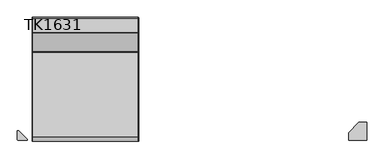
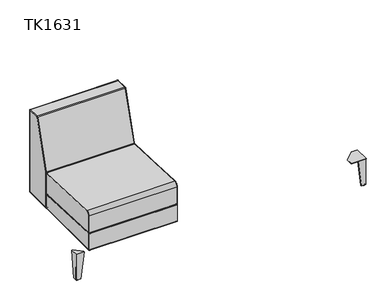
"""IFC4 building model written with IfcOpenShell, lengths in millimetres: furniture geometry, JSI-Teekan-Three_Seat_Lounge : TK1631."""

from ifc_helpers import new_model, si_unit, point, frame, origin, place, context, project, spatial, polyline, circle_curve, ellipse_curve, trimmed, outline, extrude, source, transform, mapped, element, save
from ifc_brep_helpers import plane_surface, cylinder_surface, revolved_surface, spline_surface, advanced_brep


def tk1631_d9fb5791(model_context):
    return source(origin(), model_context, "Body", "SolidModel", [
        advanced_brep(
        [(-303.0140625, 148.7693192, 295.6513391), (-303.0140625, 153.733973, 300.4095468), (-300.6328125, 151.352723, 300.4095468), (-300.6328125, 148.8703961, 298.0304429), (-899.5171875, 148.7693192, 295.6513391), (-899.5171875, 153.733973, 300.4095468), (-901.8984375, 148.8703961, 298.0304429), (-901.8984375, 151.352723, 300.4095468), (-300.6328125, -344.5512855, 318.9936072), (-303.0140625, -344.6523625, 316.6145034), (-899.5171875, -344.6523625, 316.6145034), (-901.8984375, -344.5512855, 318.9936072), (-303.0140625, -322.7527962, 467.50355), (-300.6328125, -322.8538731, 465.1244462), (-300.6328125, 149.0725499, 445.0745142), (-303.0140625, 149.1736269, 447.4536181), (-899.5171875, 149.1736269, 447.4536181), (-899.5171875, -322.7527962, 467.50355), (-901.8984375, 149.0725499, 445.0745142), (-901.8984375, -322.8538731, 465.1244462), (-300.6328125, 151.352723, 442.6954104), (-303.0140625, 153.733973, 442.6954104), (-899.5171875, 153.733973, 442.6954104), (-901.8984375, 151.352723, 442.6954104), (-300.6328125, -346.8497, 321.3917439), (-303.0140625, -349.23095, 321.3917439), (-899.5171875, -349.23095, 321.3917439), (-901.8984375, -346.8497, 321.3917439), (-300.6328125, -346.8497, 442.1264425), (-303.0140625, -349.23095, 442.1264425), (-899.5171875, -349.23095, 442.1264425), (-901.8984375, -346.8497, 442.1264425)],
        [
            (0, 1, circle_curve(frame((-303.0140625, 148.971473, 300.4095468), z_axis=(1.0, 0.0, 0.0), x_axis=(0.0, 1.0, 0.0)), 4.7625)),
            (1, 2, circle_curve(frame((-303.0140625, 151.352723, 300.4095468), z_axis=(0.0, 0.0, -1.0), x_axis=(1.0, 0.0, 0.0)), 2.38125)),
            (2, 3, circle_curve(frame((-300.6328125, 148.971473, 300.4095468), z_axis=(-1.0, 0.0, 0.0), x_axis=(0.0, 1.0, 0.0)), 2.38125)),
            (3, 0, circle_curve(frame((-303.0140625, 148.8703961, 298.0304429), z_axis=(0.0, 0.9990987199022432, -0.04244700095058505), x_axis=(1.0, 0.0, 0.0)), 2.38125)),
            (0, 4),
            (4, 5, circle_curve(frame((-899.5171875, 148.971473, 300.4095468), z_axis=(1.0, 0.0, 0.0), x_axis=(0.0, 1.0, 0.0)), 4.7625)),
            (5, 1),
            (4, 6, circle_curve(frame((-899.5171875, 148.8703961, 298.0304429), z_axis=(0.0, 0.9990987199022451, -0.0424470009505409), x_axis=(1.0, 0.0, 0.0)), 2.38125)),
            (6, 7, circle_curve(frame((-901.8984375, 148.971473, 300.4095468), z_axis=(1.0, 0.0, 0.0), x_axis=(0.0, 1.0, 0.0)), 2.38125)),
            (7, 5, circle_curve(frame((-899.5171875, 151.352723, 300.4095468), z_axis=(0.0, 0.0, -1.0), x_axis=(1.0, 0.0, 0.0)), 2.38125)),
            (3, 8),
            (8, 9, circle_curve(frame((-303.0140625, -344.5512855, 318.9936072), z_axis=(0.0, 0.9990987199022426, -0.04244700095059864), x_axis=(1.0, 0.0, 0.0)), 2.38125)),
            (9, 0),
            (9, 10),
            (10, 4),
            (10, 11, circle_curve(frame((-899.5171875, -344.5512855, 318.9936072), z_axis=(0.0, 0.9990987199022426, -0.04244700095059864), x_axis=(1.0, 0.0, 0.0)), 2.38125)),
            (11, 6),
            (12, 13, circle_curve(frame((-303.0140625, -322.8538731, 465.1244462), z_axis=(0.0, 0.9990987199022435, -0.0424470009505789), x_axis=(1.0, 0.0, 0.0)), 2.38125)),
            (13, 14),
            (14, 15, circle_curve(frame((-303.0140625, 149.0725499, 445.0745142), z_axis=(0.0, -0.9990987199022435, 0.0424470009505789), x_axis=(1.0, 0.0, 0.0)), 2.38125)),
            (15, 12),
            (15, 16),
            (16, 17),
            (17, 12),
            (16, 18, circle_curve(frame((-899.5171875, 149.0725499, 445.0745142), z_axis=(0.0, -0.9990987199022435, 0.0424470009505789), x_axis=(1.0, 0.0, 0.0)), 2.38125)),
            (18, 19),
            (19, 17, circle_curve(frame((-899.5171875, -322.8538731, 465.1244462), z_axis=(0.0, 0.9990987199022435, -0.0424470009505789), x_axis=(1.0, 0.0, 0.0)), 2.38125)),
            (14, 20, circle_curve(frame((-300.6328125, 148.971473, 442.6954104), z_axis=(-1.0, 0.0, 0.0), x_axis=(0.0, 0.04244700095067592, 0.9990987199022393)), 2.38125)),
            (20, 21, circle_curve(frame((-303.0140625, 151.352723, 442.6954104), z_axis=(0.0, 0.0, 0.9999999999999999), x_axis=(1.0, 0.0, 0.0)), 2.38125)),
            (21, 15, circle_curve(frame((-303.0140625, 148.971473, 442.6954104), z_axis=(1.0, 0.0, 0.0), x_axis=(0.0, 0.04244700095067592, 0.9990987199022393)), 4.7625)),
            (21, 22),
            (22, 16, circle_curve(frame((-899.5171875, 148.971473, 442.6954104), z_axis=(1.0, 0.0, 0.0), x_axis=(0.0, 0.04244700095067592, 0.9990987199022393)), 4.7625)),
            (22, 23, circle_curve(frame((-899.5171875, 151.352723, 442.6954104), z_axis=(0.0, 0.0, 1.0), x_axis=(1.0, 0.0, 0.0)), 2.38125)),
            (23, 18, circle_curve(frame((-901.8984375, 148.971473, 442.6954104), z_axis=(1.0, 0.0, 0.0), x_axis=(0.0, 0.04244700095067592, 0.9990987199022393)), 2.38125)),
            (1, 21),
            (20, 2),
            (5, 22),
            (7, 23),
            (8, 24, circle_curve(frame((-300.6328125, -344.4494, 321.3917439), z_axis=(-1.0, 0.0, 0.0), x_axis=(0.0, -0.04244700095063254, -0.9990987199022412)), 2.4003)),
            (24, 25, circle_curve(frame((-303.0140625, -346.8497, 321.3917439), z_axis=(0.0, 0.0, -1.0), x_axis=(1.0, 0.0, 0.0)), 2.38125)),
            (25, 9, circle_curve(frame((-303.0140625, -344.4494, 321.3917439), z_axis=(1.0, 0.0, 0.0), x_axis=(0.0, -0.04244700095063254, -0.9990987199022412)), 4.78155)),
            (25, 26),
            (26, 10, circle_curve(frame((-899.5171875, -344.4494, 321.3917439), z_axis=(1.0, 0.0, 0.0), x_axis=(0.0, -0.04244700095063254, -0.9990987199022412)), 4.78155)),
            (26, 27, circle_curve(frame((-899.5171875, -346.8497, 321.3917439), z_axis=(0.0, 0.0, -1.0), x_axis=(1.0, 0.0, 0.0)), 2.38125)),
            (27, 11, circle_curve(frame((-901.8984375, -344.4494, 321.3917439), z_axis=(1.0, 0.0, 0.0), x_axis=(0.0, -0.04244700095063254, -0.9990987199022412)), 2.4003)),
            (24, 28),
            (28, 29, circle_curve(frame((-303.0140625, -346.8497, 442.1264425), z_axis=(0.0, 0.0, -1.0), x_axis=(1.0, 0.0, 0.0)), 2.38125)),
            (29, 25),
            (29, 30),
            (30, 26),
            (30, 31, circle_curve(frame((-899.5171875, -346.8497, 442.1264425), z_axis=(0.0, 0.0, -1.0), x_axis=(1.0, 0.0, 0.0)), 2.38125)),
            (31, 27),
            (13, 28, circle_curve(frame((-300.6328125, -323.83095, 442.1264425), z_axis=(1.0, 0.0, 0.0), x_axis=(0.0, -1.0, 0.0)), 23.01875)),
            (12, 29, circle_curve(frame((-303.0140625, -323.83095, 442.1264425), z_axis=(1.0, 0.0, 0.0), x_axis=(0.0, -1.0, 0.0)), 25.4)),
            (17, 30, circle_curve(frame((-899.5171875, -323.83095, 442.1264425), z_axis=(1.0, 0.0, 0.0), x_axis=(0.0, -1.0, 0.0)), 25.4)),
            (19, 31, circle_curve(frame((-901.8984375, -323.83095, 442.1264425), z_axis=(1.0, 0.0, 0.0), x_axis=(0.0, -1.0, 0.0)), 23.01875)),
        ],
        [
            revolved_surface(trimmed(ellipse_curve(frame((-303.0140625, 151.352723, 300.4095468), z_axis=(0.0, 0.0, 1.0), x_axis=(1.0, 0.0, 0.0)), 2.38125, 2.38125), [point((-300.6328125, 151.352723, 300.4095468))], [point((-303.0140625, 153.733973, 300.4095468))], True, "CARTESIAN"), (-601.265625, 148.971473, 300.4095468), (-1.0, 0.0, 0.0)),
            cylinder_surface(frame((-601.265625, 148.971473, 300.4095468), z_axis=(-1.0, 0.0, 0.0), x_axis=(0.0, 1.0, 0.0)), 4.7625),
            revolved_surface(trimmed(ellipse_curve(frame((-899.5171875, 151.352723, 300.4095468), z_axis=(0.0, 0.0, 1.0), x_axis=(1.0, 0.0, 0.0)), 2.38125, 2.38125), [point((-899.5171875, 153.733973, 300.4095468))], [point((-901.8984375, 151.352723, 300.4095468))], True, "CARTESIAN"), (-601.265625, 148.971473, 300.4095468), (-1.0, 0.0, 0.0)),
            cylinder_surface(frame((-303.0140625, 148.8703961, 298.0304429), z_axis=(0.0, 0.9990987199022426, -0.04244700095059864), x_axis=(1.0, 0.0, 0.0)), 2.38125),
            plane_surface(frame((-303.0140625, 148.7693192, 295.6513391), z_axis=(0.0, -0.04244700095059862, -0.9990987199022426), x_axis=(0.0, -0.9990987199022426, 0.04244700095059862))),
            cylinder_surface(frame((-899.5171875, 148.8703961, 298.0304429), z_axis=(0.0, 0.9990987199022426, -0.04244700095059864), x_axis=(1.0, 0.0, 0.0)), 2.38125),
            cylinder_surface(frame((-303.0140625, -322.8538731, 465.1244462), z_axis=(0.0, -0.9990987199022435, 0.0424470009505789), x_axis=(1.0, 0.0, 0.0)), 2.38125),
            plane_surface(frame((-303.0140625, -322.7527962, 467.50355), z_axis=(0.0, 0.04244700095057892, 0.9990987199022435), x_axis=(0.0, 0.9990987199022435, -0.04244700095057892))),
            cylinder_surface(frame((-899.5171875, -322.8538731, 465.1244462), z_axis=(0.0, -0.9990987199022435, 0.0424470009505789), x_axis=(1.0, 0.0, 0.0)), 2.38125),
            revolved_surface(trimmed(ellipse_curve(frame((-303.0140625, 149.0725499, 445.0745142), z_axis=(0.0, -0.9990987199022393, 0.04244700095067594), x_axis=(1.0, 0.0, 0.0)), 2.38125, 2.38125), [point((-300.6328125, 149.0725499, 445.0745142))], [point((-303.0140625, 149.1736269, 447.4536181))], True, "CARTESIAN"), (-601.265625, 148.971473, 442.6954104), (-1.0, 0.0, 0.0)),
            cylinder_surface(frame((-601.265625, 148.971473, 442.6954104), z_axis=(-1.0, 0.0, 0.0), x_axis=(0.0, 0.04244700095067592, 0.9990987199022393)), 4.7625),
            revolved_surface(trimmed(ellipse_curve(frame((-899.5171875, 149.0725499, 445.0745142), z_axis=(0.0, -0.9990987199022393, 0.04244700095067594), x_axis=(1.0, 0.0, 0.0)), 2.38125, 2.38125), [point((-899.5171875, 149.1736269, 447.4536181))], [point((-901.8984375, 149.0725499, 445.0745142))], True, "CARTESIAN"), (-601.265625, 148.971473, 442.6954104), (-1.0, 0.0, 0.0)),
            cylinder_surface(frame((-303.0140625, 151.352723, 442.6954104), z_axis=(0.0, 0.0, 1.0), x_axis=(1.0, 0.0, 0.0)), 2.38125),
            plane_surface(frame((-303.0140625, 153.733973, 442.6954104), z_axis=(0.0, 1.0, 0.0), x_axis=(0.0, 0.0, -1.0))),
            cylinder_surface(frame((-899.5171875, 151.352723, 442.6954104), z_axis=(0.0, 0.0, 1.0), x_axis=(1.0, 0.0, 0.0)), 2.38125),
            revolved_surface(trimmed(ellipse_curve(frame((-303.0140625, -344.5512855, 318.9936072), z_axis=(0.0, 0.9990987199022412, -0.042447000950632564), x_axis=(1.0, 0.0, 0.0)), 2.38125, 2.38125), [point((-300.6328125, -344.5512855, 318.9936072))], [point((-303.0140625, -344.6523625, 316.6145034))], True, "CARTESIAN"), (-601.265625, -344.4494, 321.3917439), (-1.0, 0.0, 0.0)),
            cylinder_surface(frame((-601.265625, -344.4494, 321.3917439), z_axis=(-1.0, 0.0, 0.0), x_axis=(0.0, -0.04244700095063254, -0.9990987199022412)), 4.78155),
            revolved_surface(trimmed(ellipse_curve(frame((-899.5171875, -344.5512855, 318.9936072), z_axis=(0.0, 0.9990987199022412, -0.042447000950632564), x_axis=(1.0, 0.0, 0.0)), 2.38125, 2.38125), [point((-899.5171875, -344.6523625, 316.6145034))], [point((-901.8984375, -344.5512855, 318.9936072))], True, "CARTESIAN"), (-601.265625, -344.4494, 321.3917439), (-1.0, 0.0, 0.0)),
            cylinder_surface(frame((-303.0140625, -346.8497, 321.3917439), z_axis=(0.0, 0.0, -1.0), x_axis=(1.0, 0.0, 0.0)), 2.38125),
            plane_surface(frame((-303.0140625, -349.23095, 321.3917439), z_axis=(0.0, -1.0, 0.0), x_axis=(0.0, 0.0, 1.0))),
            cylinder_surface(frame((-899.5171875, -346.8497, 321.3917439), z_axis=(0.0, 0.0, -1.0), x_axis=(1.0, 0.0, 0.0)), 2.38125),
            plane_surface(frame((-300.6328125, -323.83095, 442.1264425), z_axis=(1.0, 0.0, 0.0), x_axis=(0.0, -1.0, 0.0))),
            revolved_surface(trimmed(ellipse_curve(frame((-303.0140625, -346.8497, 442.1264425), z_axis=(0.0, 0.0, -1.0), x_axis=(1.0, 0.0, 0.0)), 2.38125, 2.38125), [point((-300.6328125, -346.8497, 442.1264425))], [point((-303.0140625, -349.23095, 442.1264425))], True, "CARTESIAN"), (-601.265625, -323.83095, 442.1264425), (-1.0, 0.0, 0.0)),
            cylinder_surface(frame((-601.265625, -323.83095, 442.1264425), z_axis=(-1.0, 0.0, 0.0), x_axis=(0.0, -1.0, 0.0)), 25.4),
            revolved_surface(trimmed(ellipse_curve(frame((-899.5171875, -346.8497, 442.1264425), z_axis=(0.0, 0.0, -1.0), x_axis=(1.0, 0.0, 0.0)), 2.38125, 2.38125), [point((-899.5171875, -349.23095, 442.1264425))], [point((-901.8984375, -346.8497, 442.1264425))], True, "CARTESIAN"), (-601.265625, -323.83095, 442.1264425), (-1.0, 0.0, 0.0)),
            plane_surface(frame((-901.8984375, -323.83095, 442.1264425), z_axis=(-1.0, 0.0, 0.0), x_axis=(0.0, -1.0, 0.0))),
        ],
        [
            (0, [[1, 2, 3, 4]]),
            (1, [[-1, 5, 6, 7]]),
            (2, [[-6, 8, 9, 10]]),
            (3, [[-4, 11, 12, 13]]),
            (4, [[-5, -13, 14, 15]]),
            (5, [[-8, -15, 16, 17]]),
            (6, [[18, 19, 20, 21]]),
            (7, [[-21, 22, 23, 24]]),
            (8, [[-23, 25, 26, 27]]),
            (9, [[-20, 28, 29, 30]]),
            (10, [[-22, -30, 31, 32]]),
            (11, [[-25, -32, 33, 34]]),
            (12, [[-2, 35, -29, 36]]),
            (13, [[-7, 37, -31, -35]]),
            (14, [[-10, 38, -33, -37]]),
            (15, [[-12, 39, 40, 41]]),
            (16, [[-14, -41, 42, 43]]),
            (17, [[-16, -43, 44, 45]]),
            (18, [[-40, 46, 47, 48]]),
            (19, [[-42, -48, 49, 50]]),
            (20, [[-44, -50, 51, 52]]),
            (21, [[-3, -36, -28, -19, 53, -46, -39, -11]]),
            (22, [[-18, 54, -47, -53]]),
            (23, [[-24, 55, -49, -54]]),
            (24, [[-27, 56, -51, -55]]),
            (25, [[-9, -17, -45, -52, -56, -26, -34, -38]]),
        ],
    ),
        advanced_brep(
        [(-899.5171875, -349.25, 197.5346851), (-303.0140625, -349.25, 197.5346851), (-303.0140625, -349.25, 311.8407029), (-899.5171875, -349.25, 311.8407029), (-901.8984375, -346.86875, 311.8407029), (-901.8984375, -346.86875, 197.5346851), (-300.6328125, -346.86875, 197.5346851), (-300.6328125, -346.86875, 311.8407029), (-899.5171875, -344.2853462, 316.5989106), (-303.0140625, -344.2853462, 316.5989106), (-303.0140625, 149.169864, 295.6343219), (-899.5171875, 149.169864, 295.6343219), (-901.8984375, 149.0687871, 293.255218), (-901.8984375, -344.3864231, 314.2198068), (-300.6328125, -344.3864231, 314.2198068), (-300.6328125, 149.0687871, 293.255218), (-303.0140625, 153.7302102, 290.8761142), (-899.5171875, 153.7302102, 290.8761142), (-901.8984375, 151.3489602, 290.8761142), (-300.6328125, 151.3489602, 290.8761142), (-303.0140625, 153.7302102, 197.5346851), (-899.5171875, 153.7302102, 197.5346851), (-901.8984375, 151.3489602, 197.5346851), (-300.6328125, 151.3489602, 197.5346851), (-303.0140625, 148.9677102, 192.7721851), (-899.5171875, 148.9677102, 192.7721851), (-901.8984375, 148.9677102, 195.1534351), (-300.6328125, 148.9677102, 195.1534351), (-303.0140625, -344.4875, 192.7721851), (-899.5171875, -344.4875, 192.7721851), (-901.8984375, -344.4875, 195.1534351), (-300.6328125, -344.4875, 195.1534351)],
        [
            (0, 1),
            (1, 2),
            (2, 3),
            (3, 0),
            (3, 4, circle_curve(frame((-899.5171875, -346.86875, 311.8407029), z_axis=(0.0, 0.0, -1.0), x_axis=(0.0, -1.0, 0.0)), 2.38125)),
            (4, 5),
            (5, 0, circle_curve(frame((-899.5171875, -346.86875, 197.5346851), z_axis=(0.0, 0.0, 1.0), x_axis=(0.0, -1.0, 0.0)), 2.38125)),
            (1, 6, circle_curve(frame((-303.0140625, -346.86875, 197.5346851), z_axis=(0.0, 0.0, 1.0), x_axis=(0.0, -1.0, 0.0)), 2.38125)),
            (6, 7),
            (7, 2, circle_curve(frame((-303.0140625, -346.86875, 311.8407029), z_axis=(0.0, 0.0, -1.0), x_axis=(0.0, -1.0, 0.0)), 2.38125)),
            (8, 9),
            (9, 10),
            (10, 11),
            (11, 8),
            (11, 12, circle_curve(frame((-899.5171875, 149.0687871, 293.255218), z_axis=(0.0, -0.9990987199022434, 0.04244700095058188), x_axis=(0.0, 0.04244700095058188, 0.9990987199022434)), 2.38125)),
            (12, 13),
            (13, 8, circle_curve(frame((-899.5171875, -344.3864231, 314.2198068), z_axis=(0.0, 0.9990987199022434, -0.04244700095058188), x_axis=(0.0, 0.04244700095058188, 0.9990987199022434)), 2.38125)),
            (9, 14, circle_curve(frame((-303.0140625, -344.3864231, 314.2198068), z_axis=(0.0, 0.9990987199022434, -0.04244700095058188), x_axis=(0.0, 0.04244700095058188, 0.9990987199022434)), 2.38125)),
            (14, 15),
            (15, 10, circle_curve(frame((-303.0140625, 149.0687871, 293.255218), z_axis=(0.0, -0.9990987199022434, 0.04244700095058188), x_axis=(0.0, 0.04244700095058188, 0.9990987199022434)), 2.38125)),
            (10, 16, circle_curve(frame((-303.0140625, 148.9677102, 290.8761142), z_axis=(-1.0, 0.0, 0.0), x_axis=(0.0, 0.0424470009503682, 0.9990987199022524)), 4.7625)),
            (16, 17),
            (17, 11, circle_curve(frame((-899.5171875, 148.9677102, 290.8761142), z_axis=(1.0, 0.0, 0.0), x_axis=(0.0, 0.0424470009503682, 0.9990987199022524)), 4.7625)),
            (17, 18, circle_curve(frame((-899.5171875, 151.3489602, 290.8761142), z_axis=(0.0, 0.0, 1.0), x_axis=(0.0, 1.0, 0.0)), 2.38125)),
            (18, 12, circle_curve(frame((-901.8984375, 148.9677102, 290.8761142), z_axis=(1.0, 0.0, 0.0), x_axis=(0.0, 0.0424470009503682, 0.9990987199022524)), 2.38125)),
            (15, 19, circle_curve(frame((-300.6328125, 148.9677102, 290.8761142), z_axis=(-1.0, 0.0, 0.0), x_axis=(0.0, 0.0424470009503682, 0.9990987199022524)), 2.38125)),
            (19, 16, circle_curve(frame((-303.0140625, 151.3489602, 290.8761142), z_axis=(0.0, 0.0, 1.0), x_axis=(0.0, 1.0, 0.0)), 2.38125)),
            (16, 20),
            (20, 21),
            (21, 17),
            (21, 22, circle_curve(frame((-899.5171875, 151.3489602, 197.5346851), z_axis=(0.0, 0.0, 1.0), x_axis=(0.0, 1.0, 0.0)), 2.38125)),
            (22, 18),
            (19, 23),
            (23, 20, circle_curve(frame((-303.0140625, 151.3489602, 197.5346851), z_axis=(0.0, 0.0, 1.0), x_axis=(0.0, 1.0, 0.0)), 2.38125)),
            (20, 24, circle_curve(frame((-303.0140625, 148.9677102, 197.5346851), z_axis=(-1.0, 0.0, 0.0), x_axis=(0.0, 1.0, 0.0)), 4.7625)),
            (24, 25),
            (25, 21, circle_curve(frame((-899.5171875, 148.9677102, 197.5346851), z_axis=(1.0, 0.0, 0.0), x_axis=(0.0, 1.0, 0.0)), 4.7625)),
            (25, 26, circle_curve(frame((-899.5171875, 148.9677102, 195.1534351), z_axis=(0.0, 1.0, 0.0), x_axis=(0.0, 0.0, -1.0)), 2.38125)),
            (26, 22, circle_curve(frame((-901.8984375, 148.9677102, 197.5346851), z_axis=(1.0, 0.0, 0.0), x_axis=(0.0, 1.0, 0.0)), 2.38125)),
            (23, 27, circle_curve(frame((-300.6328125, 148.9677102, 197.5346851), z_axis=(-1.0, 0.0, 0.0), x_axis=(0.0, 1.0, 0.0)), 2.38125)),
            (27, 24, circle_curve(frame((-303.0140625, 148.9677102, 195.1534351), z_axis=(0.0, 1.0, 0.0), x_axis=(0.0, 0.0, -1.0)), 2.38125)),
            (24, 28),
            (28, 29),
            (29, 25),
            (29, 30, circle_curve(frame((-899.5171875, -344.4875, 195.1534351), z_axis=(0.0, 1.0, 0.0), x_axis=(0.0, 0.0, -1.0)), 2.38125)),
            (30, 26),
            (27, 31),
            (31, 28, circle_curve(frame((-303.0140625, -344.4875, 195.1534351), z_axis=(0.0, 1.0, 0.0), x_axis=(0.0, 0.0, -1.0)), 2.38125)),
            (0, 29, circle_curve(frame((-899.5171875, -344.4875, 197.5346851), z_axis=(1.0, 0.0, 0.0), x_axis=(0.0, 0.0, -1.0)), 4.7625)),
            (28, 1, circle_curve(frame((-303.0140625, -344.4875, 197.5346851), z_axis=(-1.0, 0.0, 0.0), x_axis=(0.0, 0.0, -1.0)), 4.7625)),
            (5, 30, circle_curve(frame((-901.8984375, -344.4875, 197.5346851), z_axis=(1.0, 0.0, 0.0), x_axis=(0.0, 0.0, -1.0)), 2.38125)),
            (31, 6, circle_curve(frame((-300.6328125, -344.4875, 197.5346851), z_axis=(-1.0, 0.0, 0.0), x_axis=(0.0, 0.0, -1.0)), 2.38125)),
            (2, 9, circle_curve(frame((-303.0140625, -344.4875, 311.8407029), z_axis=(-1.0, 0.0, 0.0), x_axis=(0.0, -1.0, 0.0)), 4.7625)),
            (8, 3, circle_curve(frame((-899.5171875, -344.4875, 311.8407029), z_axis=(1.0, 0.0, 0.0), x_axis=(0.0, -1.0, 0.0)), 4.7625)),
            (13, 4, circle_curve(frame((-901.8984375, -344.4875, 311.8407029), z_axis=(1.0, 0.0, 0.0), x_axis=(0.0, -1.0, 0.0)), 2.38125)),
            (14, 7, circle_curve(frame((-300.6328125, -344.4875, 311.8407029), z_axis=(1.0, 0.0, 0.0), x_axis=(0.0, -1.0, 0.0)), 2.38125)),
        ],
        [
            plane_surface(frame((-303.0140625, -349.25, 197.5346851), z_axis=(0.0, -1.0, 0.0), x_axis=(0.0, 0.0, 1.0))),
            cylinder_surface(frame((-899.5171875, -346.86875, 197.5346851), z_axis=(0.0, 0.0, -1.0), x_axis=(0.0, -1.0, 0.0)), 2.38125),
            cylinder_surface(frame((-303.0140625, -346.86875, 197.5346851), z_axis=(0.0, 0.0, -1.0), x_axis=(0.0, -1.0, 0.0)), 2.38125),
            plane_surface(frame((-303.0140625, -344.2853462, 316.5989106), z_axis=(0.0, 0.04244700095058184, 0.9990987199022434), x_axis=(0.0, 0.9990987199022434, -0.04244700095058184))),
            cylinder_surface(frame((-899.5171875, -344.3864231, 314.2198068), z_axis=(0.0, -0.9990987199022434, 0.04244700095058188), x_axis=(0.0, 0.04244700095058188, 0.9990987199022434)), 2.38125),
            cylinder_surface(frame((-303.0140625, -344.3864231, 314.2198068), z_axis=(0.0, -0.9990987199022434, 0.04244700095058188), x_axis=(0.0, 0.04244700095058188, 0.9990987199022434)), 2.38125),
            cylinder_surface(frame((-601.265625, 148.9677102, 290.8761142), z_axis=(-1.0, 0.0, 0.0), x_axis=(0.0, 0.0424470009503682, 0.9990987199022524)), 4.7625),
            revolved_surface(trimmed(ellipse_curve(frame((-899.5171875, 149.0687871, 293.255218), z_axis=(0.0, -0.9990987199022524, 0.042447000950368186), x_axis=(0.0, 0.042447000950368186, 0.9990987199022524)), 2.38125, 2.38125), [point((-899.5171875, 149.169864, 295.6343219))], [point((-901.8984375, 149.0687871, 293.255218))], True, "CARTESIAN"), (-601.265625, 148.9677102, 290.8761142), (-1.0, 0.0, 0.0)),
            revolved_surface(trimmed(ellipse_curve(frame((-303.0140625, 149.0687871, 293.255218), z_axis=(0.0, -0.9990987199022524, 0.042447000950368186), x_axis=(0.0, 0.042447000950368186, 0.9990987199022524)), 2.38125, 2.38125), [point((-300.6328125, 149.0687871, 293.255218))], [point((-303.0140625, 149.169864, 295.6343219))], True, "CARTESIAN"), (-601.265625, 148.9677102, 290.8761142), (-1.0, 0.0, 0.0)),
            plane_surface(frame((-303.0140625, 153.7302102, 290.8761142), z_axis=(0.0, 1.0, 0.0), x_axis=(0.0, 0.0, -1.0))),
            cylinder_surface(frame((-899.5171875, 151.3489602, 290.8761142), z_axis=(0.0, 0.0, 1.0), x_axis=(0.0, 1.0, 0.0)), 2.38125),
            cylinder_surface(frame((-303.0140625, 151.3489602, 290.8761142), z_axis=(0.0, 0.0, 1.0), x_axis=(0.0, 1.0, 0.0)), 2.38125),
            cylinder_surface(frame((-601.265625, 148.9677102, 197.5346851), z_axis=(-1.0, 0.0, 0.0), x_axis=(0.0, 1.0, 0.0)), 4.7625),
            revolved_surface(trimmed(ellipse_curve(frame((-899.5171875, 151.3489602, 197.5346851), z_axis=(0.0, 0.0, 1.0), x_axis=(0.0, 1.0, 0.0)), 2.38125, 2.38125), [point((-899.5171875, 153.7302102, 197.5346851))], [point((-901.8984375, 151.3489602, 197.5346851))], True, "CARTESIAN"), (-601.265625, 148.9677102, 197.5346851), (-1.0, 0.0, 0.0)),
            revolved_surface(trimmed(ellipse_curve(frame((-303.0140625, 151.3489602, 197.5346851), z_axis=(0.0, 0.0, 1.0), x_axis=(0.0, 1.0, 0.0)), 2.38125, 2.38125), [point((-300.6328125, 151.3489602, 197.5346851))], [point((-303.0140625, 153.7302102, 197.5346851))], True, "CARTESIAN"), (-601.265625, 148.9677102, 197.5346851), (-1.0, 0.0, 0.0)),
            plane_surface(frame((-303.0140625, 148.9677102, 192.7721851), z_axis=(0.0, 0.0, -1.0), x_axis=(0.0, -1.0, 0.0))),
            cylinder_surface(frame((-899.5171875, 148.9677102, 195.1534351), z_axis=(0.0, 1.0, 0.0), x_axis=(0.0, 0.0, -1.0)), 2.38125),
            cylinder_surface(frame((-303.0140625, 148.9677102, 195.1534351), z_axis=(0.0, 1.0, 0.0), x_axis=(0.0, 0.0, -1.0)), 2.38125),
            cylinder_surface(frame((-601.265625, -344.4875, 197.5346851), z_axis=(-1.0, 0.0, 0.0), x_axis=(0.0, 0.0, -1.0)), 4.7625),
            revolved_surface(trimmed(ellipse_curve(frame((-899.5171875, -344.4875, 195.1534351), z_axis=(0.0, 1.0, 0.0), x_axis=(0.0, 0.0, -1.0)), 2.38125, 2.38125), [point((-899.5171875, -344.4875, 192.7721851))], [point((-901.8984375, -344.4875, 195.1534351))], True, "CARTESIAN"), (-601.265625, -344.4875, 197.5346851), (-1.0, 0.0, 0.0)),
            revolved_surface(trimmed(ellipse_curve(frame((-303.0140625, -344.4875, 195.1534351), z_axis=(0.0, 1.0, 0.0), x_axis=(0.0, 0.0, -1.0)), 2.38125, 2.38125), [point((-300.6328125, -344.4875, 195.1534351))], [point((-303.0140625, -344.4875, 192.7721851))], True, "CARTESIAN"), (-601.265625, -344.4875, 197.5346851), (-1.0, 0.0, 0.0)),
            cylinder_surface(frame((-601.265625, -344.4875, 311.8407029), z_axis=(-1.0, 0.0, 0.0), x_axis=(0.0, -1.0, 0.0)), 4.7625),
            revolved_surface(trimmed(ellipse_curve(frame((-899.5171875, -346.86875, 311.8407029), z_axis=(0.0, 0.0, -1.0), x_axis=(0.0, -1.0, 0.0)), 2.38125, 2.38125), [point((-899.5171875, -349.25, 311.8407029))], [point((-901.8984375, -346.86875, 311.8407029))], True, "CARTESIAN"), (-601.265625, -344.4875, 311.8407029), (-1.0, 0.0, 0.0)),
            plane_surface(frame((-901.8984375, -344.4875, 311.8407029), z_axis=(-1.0, 0.0, 0.0), x_axis=(0.0, -1.0, 0.0))),
            plane_surface(frame((-300.6328125, -344.4875, 311.8407029), z_axis=(1.0, 0.0, 0.0), x_axis=(0.0, -1.0, 0.0))),
            revolved_surface(trimmed(ellipse_curve(frame((-303.0140625, -346.86875, 311.8407029), z_axis=(0.0, 0.0, -1.0), x_axis=(0.0, -1.0, 0.0)), 2.38125, 2.38125), [point((-300.6328125, -346.86875, 311.8407029))], [point((-303.0140625, -349.25, 311.8407029))], True, "CARTESIAN"), (-601.265625, -344.4875, 311.8407029), (-1.0, 0.0, 0.0)),
        ],
        [
            (0, [[1, 2, 3, 4]]),
            (1, [[-4, 5, 6, 7]]),
            (2, [[-2, 8, 9, 10]]),
            (3, [[11, 12, 13, 14]]),
            (4, [[-14, 15, 16, 17]]),
            (5, [[-12, 18, 19, 20]]),
            (6, [[-13, 21, 22, 23]]),
            (7, [[-15, -23, 24, 25]]),
            (8, [[-20, 26, 27, -21]]),
            (9, [[-22, 28, 29, 30]]),
            (10, [[-24, -30, 31, 32]]),
            (11, [[-27, 33, 34, -28]]),
            (12, [[-29, 35, 36, 37]]),
            (13, [[-31, -37, 38, 39]]),
            (14, [[-34, 40, 41, -35]]),
            (15, [[-36, 42, 43, 44]]),
            (16, [[-38, -44, 45, 46]]),
            (17, [[-41, 47, 48, -42]]),
            (18, [[-1, 49, -43, 50]]),
            (19, [[-7, 51, -45, -49]]),
            (20, [[-8, -50, -48, 52]]),
            (21, [[-3, 53, -11, 54]]),
            (22, [[-5, -54, -17, 55]]),
            (23, [[-6, -55, -16, -25, -32, -39, -46, -51]]),
            (24, [[-9, -52, -47, -40, -33, -26, -19, 56]]),
            (25, [[-10, -56, -18, -53]]),
        ],
    ),
        advanced_brep(
        [(-300.6328125, 261.4671324, 783.3496278), (-300.6328125, 263.7394056, 785.01875), (-303.0140625, 263.7394056, 787.4), (-303.0140625, 259.1948592, 784.0617556), (-899.5171875, 259.1948592, 784.0617556), (-899.5171875, 263.7394056, 787.4), (-901.8984375, 263.7394056, 785.01875), (-901.8984375, 261.4671324, 783.3496278), (-303.0140625, 155.07802, 451.8434221), (-300.6328125, 157.3502932, 451.1312943), (-901.8984375, 157.3502932, 451.1312943), (-899.5171875, 155.07802, 451.8434221), (-303.0140625, 153.733973, 443.0605128), (-300.6328125, 156.115223, 443.0605128), (-901.8984375, 156.115223, 443.0605128), (-899.5171875, 153.733973, 443.0605128), (-303.0140625, 153.733973, 197.5346851), (-300.6328125, 156.115223, 197.5346851), (-901.8984375, 156.115223, 197.5346851), (-899.5171875, 153.733973, 197.5346851), (-303.0140625, 158.496473, 192.7721851), (-300.6328125, 158.496473, 195.1534351), (-901.8984375, 158.496473, 195.1534351), (-899.5171875, 158.496473, 192.7721851), (-303.0140625, 344.4875, 192.7721851), (-300.6328125, 344.4875, 195.1534351), (-901.8984375, 344.4875, 195.1534351), (-899.5171875, 344.4875, 192.7721851), (-303.0140625, 349.25, 197.5346851), (-300.6328125, 346.86875, 197.5346851), (-901.8984375, 346.86875, 197.5346851), (-899.5171875, 349.25, 197.5346851), (-303.0140625, 349.25, 782.6375), (-300.6328125, 346.86875, 782.6375), (-901.8984375, 346.86875, 782.6375), (-899.5171875, 349.25, 782.6375), (-303.0140625, 344.4875, 787.4), (-300.6328125, 344.4875, 785.01875), (-901.8984375, 344.4875, 785.01875), (-899.5171875, 344.4875, 787.4)],
        [
            (0, 1, circle_curve(frame((-300.6328125, 263.7394056, 782.6375), z_axis=(-1.0, 0.0, 0.0), x_axis=(0.0, 0.0, 1.0)), 2.38125)),
            (1, 2, circle_curve(frame((-303.0140625, 263.7394056, 785.01875), z_axis=(0.0, -1.0, 0.0), x_axis=(0.0, 0.0, -1.0)), 2.38125)),
            (2, 3, circle_curve(frame((-303.0140625, 263.7394056, 782.6375), z_axis=(1.0, 0.0, 0.0), x_axis=(0.0, 0.0, 1.0)), 4.7625)),
            (3, 0, circle_curve(frame((-303.0140625, 261.4671324, 783.3496278), z_axis=(0.0, 0.2990562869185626, 0.9542354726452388), x_axis=(0.0, 0.9542354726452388, -0.2990562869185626)), 2.38125)),
            (4, 5, circle_curve(frame((-899.5171875, 263.7394056, 782.6375), z_axis=(-1.0, 0.0, 0.0), x_axis=(0.0, 0.0, 1.0)), 4.7625)),
            (5, 6, circle_curve(frame((-899.5171875, 263.7394056, 785.01875), z_axis=(0.0, -1.0, 0.0), x_axis=(0.0, 0.0, -1.0)), 2.38125)),
            (6, 7, circle_curve(frame((-901.8984375, 263.7394056, 782.6375), z_axis=(1.0, 0.0, 0.0), x_axis=(0.0, 0.0, 1.0)), 2.38125)),
            (7, 4, circle_curve(frame((-899.5171875, 261.4671324, 783.3496278), z_axis=(0.0, 0.29905628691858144, 0.9542354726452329), x_axis=(0.0, 0.9542354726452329, -0.29905628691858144)), 2.38125)),
            (2, 5),
            (4, 3),
            (3, 8),
            (8, 9, circle_curve(frame((-303.0140625, 157.3502932, 451.1312943), z_axis=(0.0, 0.29905628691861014, 0.954235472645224), x_axis=(0.0, 0.954235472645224, -0.29905628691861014)), 2.38125)),
            (9, 0),
            (7, 10),
            (10, 11, circle_curve(frame((-899.5171875, 157.3502932, 451.1312943), z_axis=(0.0, 0.29905628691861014, 0.954235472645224), x_axis=(0.0, 0.954235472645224, -0.29905628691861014)), 2.38125)),
            (11, 4),
            (11, 8),
            (8, 12, circle_curve(frame((-303.0140625, 183.102723, 443.0605128), z_axis=(1.0, 0.0, 0.0), x_axis=(0.0, -0.9542354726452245, 0.29905628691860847)), 29.36875)),
            (12, 13, circle_curve(frame((-303.0140625, 156.115223, 443.0605128), z_axis=(0.0, 0.0, 1.0), x_axis=(0.0, 1.0, 0.0)), 2.38125)),
            (13, 9, circle_curve(frame((-300.6328125, 183.102723, 443.0605128), z_axis=(-1.0, 0.0, 0.0), x_axis=(0.0, -0.9542354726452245, 0.29905628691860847)), 26.9875)),
            (10, 14, circle_curve(frame((-901.8984375, 183.102723, 443.0605128), z_axis=(1.0, 0.0, 0.0), x_axis=(0.0, -0.9542354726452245, 0.29905628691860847)), 26.9875)),
            (14, 15, circle_curve(frame((-899.5171875, 156.115223, 443.0605128), z_axis=(0.0, 0.0, 1.0), x_axis=(0.0, 1.0, 0.0)), 2.38125)),
            (15, 11, circle_curve(frame((-899.5171875, 183.102723, 443.0605128), z_axis=(-1.0, 0.0, 0.0), x_axis=(0.0, -0.9542354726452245, 0.29905628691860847)), 29.36875)),
            (15, 12),
            (12, 16),
            (16, 17, circle_curve(frame((-303.0140625, 156.115223, 197.5346851), z_axis=(0.0, 0.0, 1.0), x_axis=(0.0, 1.0, 0.0)), 2.38125)),
            (17, 13),
            (14, 18),
            (18, 19, circle_curve(frame((-899.5171875, 156.115223, 197.5346851), z_axis=(0.0, 0.0, 1.0), x_axis=(0.0, 1.0, 0.0)), 2.38125)),
            (19, 15),
            (19, 16),
            (16, 20, circle_curve(frame((-303.0140625, 158.496473, 197.5346851), z_axis=(1.0, 0.0, 0.0), x_axis=(0.0, -1.0, 0.0)), 4.7625)),
            (20, 21, circle_curve(frame((-303.0140625, 158.496473, 195.1534351), z_axis=(0.0, -1.0, 0.0), x_axis=(0.0, 0.0, 1.0)), 2.38125)),
            (21, 17, circle_curve(frame((-300.6328125, 158.496473, 197.5346851), z_axis=(-1.0, 0.0, 0.0), x_axis=(0.0, -1.0, 0.0)), 2.38125)),
            (18, 22, circle_curve(frame((-901.8984375, 158.496473, 197.5346851), z_axis=(1.0, 0.0, 0.0), x_axis=(0.0, -1.0, 0.0)), 2.38125)),
            (22, 23, circle_curve(frame((-899.5171875, 158.496473, 195.1534351), z_axis=(0.0, -1.0, 0.0), x_axis=(0.0, 0.0, 1.0)), 2.38125)),
            (23, 19, circle_curve(frame((-899.5171875, 158.496473, 197.5346851), z_axis=(-1.0, 0.0, 0.0), x_axis=(0.0, -1.0, 0.0)), 4.7625)),
            (23, 20),
            (20, 24),
            (24, 25, circle_curve(frame((-303.0140625, 344.4875, 195.1534351), z_axis=(0.0, -1.0, 0.0), x_axis=(0.0, 0.0, 1.0)), 2.38125)),
            (25, 21),
            (22, 26),
            (26, 27, circle_curve(frame((-899.5171875, 344.4875, 195.1534351), z_axis=(0.0, -1.0, 0.0), x_axis=(0.0, 0.0, 1.0)), 2.38125)),
            (27, 23),
            (27, 24),
            (24, 28, circle_curve(frame((-303.0140625, 344.4875, 197.5346851), z_axis=(1.0, 0.0, 0.0), x_axis=(0.0, 0.0, -1.0)), 4.7625)),
            (28, 29, circle_curve(frame((-303.0140625, 346.86875, 197.5346851), z_axis=(0.0, 0.0, -1.0), x_axis=(0.0, -1.0, 0.0)), 2.38125)),
            (29, 25, circle_curve(frame((-300.6328125, 344.4875, 197.5346851), z_axis=(-1.0, 0.0, 0.0), x_axis=(0.0, 0.0, -1.0)), 2.38125)),
            (26, 30, circle_curve(frame((-901.8984375, 344.4875, 197.5346851), z_axis=(1.0, 0.0, 0.0), x_axis=(0.0, 0.0, -1.0)), 2.38125)),
            (30, 31, circle_curve(frame((-899.5171875, 346.86875, 197.5346851), z_axis=(0.0, 0.0, -1.0), x_axis=(0.0, -1.0, 0.0)), 2.38125)),
            (31, 27, circle_curve(frame((-899.5171875, 344.4875, 197.5346851), z_axis=(-1.0, 0.0, 0.0), x_axis=(0.0, 0.0, -1.0)), 4.7625)),
            (31, 28),
            (28, 32),
            (32, 33, circle_curve(frame((-303.0140625, 346.86875, 782.6375), z_axis=(0.0, 0.0, -1.0), x_axis=(0.0, -1.0, 0.0)), 2.38125)),
            (33, 29),
            (30, 34),
            (34, 35, circle_curve(frame((-899.5171875, 346.86875, 782.6375), z_axis=(0.0, 0.0, -1.0), x_axis=(0.0, -1.0, 0.0)), 2.38125)),
            (35, 31),
            (35, 32),
            (32, 36, circle_curve(frame((-303.0140625, 344.4875, 782.6375), z_axis=(1.0, 0.0, 0.0), x_axis=(0.0, 1.0, 0.0)), 4.7625)),
            (36, 37, circle_curve(frame((-303.0140625, 344.4875, 785.01875), z_axis=(0.0, 1.0, 0.0), x_axis=(0.0, 0.0, -1.0)), 2.38125)),
            (37, 33, circle_curve(frame((-300.6328125, 344.4875, 782.6375), z_axis=(-1.0, 0.0, 0.0), x_axis=(0.0, 1.0, 0.0)), 2.38125)),
            (34, 38, circle_curve(frame((-901.8984375, 344.4875, 782.6375), z_axis=(1.0, 0.0, 0.0), x_axis=(0.0, 1.0, 0.0)), 2.38125)),
            (38, 39, circle_curve(frame((-899.5171875, 344.4875, 785.01875), z_axis=(0.0, 1.0, 0.0), x_axis=(0.0, 0.0, -1.0)), 2.38125)),
            (39, 35, circle_curve(frame((-899.5171875, 344.4875, 782.6375), z_axis=(-1.0, 0.0, 0.0), x_axis=(0.0, 1.0, 0.0)), 4.7625)),
            (39, 36),
            (1, 37),
            (36, 2),
            (6, 38),
            (5, 39),
        ],
        [
            revolved_surface(trimmed(ellipse_curve(frame((-303.0140625, 263.7394056, 785.01875), z_axis=(0.0, 1.0, 0.0), x_axis=(0.0, 0.0, -1.0)), 2.38125, 2.38125), [point((-303.0140625, 263.7394056, 787.4))], [point((-300.6328125, 263.7394056, 785.01875))], True, "CARTESIAN"), (-601.265625, 263.7394056, 782.6375), (1.0, 0.0, 0.0)),
            revolved_surface(trimmed(ellipse_curve(frame((-899.5171875, 263.7394056, 785.01875), z_axis=(0.0, 1.0, 0.0), x_axis=(0.0, 0.0, -1.0)), 2.38125, 2.38125), [point((-901.8984375, 263.7394056, 785.01875))], [point((-899.5171875, 263.7394056, 787.4))], True, "CARTESIAN"), (-601.265625, 263.7394056, 782.6375), (1.0, 0.0, 0.0)),
            cylinder_surface(frame((-601.265625, 263.7394056, 782.6375), z_axis=(1.0, 0.0, 0.0), x_axis=(0.0, 0.0, 1.0)), 4.7625),
            cylinder_surface(frame((-303.0140625, 261.4671324, 783.3496278), z_axis=(0.0, 0.29905628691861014, 0.954235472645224), x_axis=(0.0, 0.954235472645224, -0.29905628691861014)), 2.38125),
            cylinder_surface(frame((-899.5171875, 261.4671324, 783.3496278), z_axis=(0.0, 0.29905628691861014, 0.954235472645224), x_axis=(0.0, 0.954235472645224, -0.29905628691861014)), 2.38125),
            plane_surface(frame((-899.5171875, 259.1948592, 784.0617556), z_axis=(0.0, -0.9542354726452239, 0.29905628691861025), x_axis=(0.0, -0.29905628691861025, -0.9542354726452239))),
            revolved_surface(trimmed(ellipse_curve(frame((-303.0140625, 157.3502932, 451.1312943), z_axis=(0.0, 0.299056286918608, 0.9542354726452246), x_axis=(0.0, 0.9542354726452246, -0.299056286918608)), 2.38125, 2.38125), [point((-303.0140625, 155.07802, 451.8434221))], [point((-300.6328125, 157.3502932, 451.1312943))], True, "CARTESIAN"), (-601.265625, 183.102723, 443.0605128), (1.0, 0.0, 0.0)),
            revolved_surface(trimmed(ellipse_curve(frame((-899.5171875, 157.3502932, 451.1312943), z_axis=(0.0, 0.299056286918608, 0.9542354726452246), x_axis=(0.0, 0.9542354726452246, -0.299056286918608)), 2.38125, 2.38125), [point((-901.8984375, 157.3502932, 451.1312943))], [point((-899.5171875, 155.07802, 451.8434221))], True, "CARTESIAN"), (-601.265625, 183.102723, 443.0605128), (1.0, 0.0, 0.0)),
            cylinder_surface(frame((-601.265625, 183.102723, 443.0605128), z_axis=(1.0, 0.0, 0.0), x_axis=(0.0, -0.9542354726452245, 0.29905628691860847)), 29.36875),
            cylinder_surface(frame((-303.0140625, 156.115223, 443.0605128), z_axis=(0.0, 0.0, 1.0), x_axis=(0.0, 1.0, 0.0)), 2.38125),
            cylinder_surface(frame((-899.5171875, 156.115223, 443.0605128), z_axis=(0.0, 0.0, 1.0), x_axis=(0.0, 1.0, 0.0)), 2.38125),
            plane_surface(frame((-899.5171875, 153.733973, 443.0605128), z_axis=(0.0, -1.0, 0.0), x_axis=(0.0, 0.0, -1.0))),
            revolved_surface(trimmed(ellipse_curve(frame((-303.0140625, 156.115223, 197.5346851), z_axis=(0.0, 0.0, 1.0), x_axis=(0.0, 1.0, 0.0)), 2.38125, 2.38125), [point((-303.0140625, 153.733973, 197.5346851))], [point((-300.6328125, 156.115223, 197.5346851))], True, "CARTESIAN"), (-601.265625, 158.496473, 197.5346851), (1.0, 0.0, 0.0)),
            revolved_surface(trimmed(ellipse_curve(frame((-899.5171875, 156.115223, 197.5346851), z_axis=(0.0, 0.0, 1.0), x_axis=(0.0, 1.0, 0.0)), 2.38125, 2.38125), [point((-901.8984375, 156.115223, 197.5346851))], [point((-899.5171875, 153.733973, 197.5346851))], True, "CARTESIAN"), (-601.265625, 158.496473, 197.5346851), (1.0, 0.0, 0.0)),
            cylinder_surface(frame((-601.265625, 158.496473, 197.5346851), z_axis=(1.0, 0.0, 0.0), x_axis=(0.0, -1.0, 0.0)), 4.7625),
            cylinder_surface(frame((-303.0140625, 158.496473, 195.1534351), z_axis=(0.0, -1.0, 0.0), x_axis=(0.0, 0.0, 1.0)), 2.38125),
            cylinder_surface(frame((-899.5171875, 158.496473, 195.1534351), z_axis=(0.0, -1.0, 0.0), x_axis=(0.0, 0.0, 1.0)), 2.38125),
            plane_surface(frame((-899.5171875, 158.496473, 192.7721851), z_axis=(0.0, 0.0, -1.0), x_axis=(0.0, 1.0, 0.0))),
            revolved_surface(trimmed(ellipse_curve(frame((-303.0140625, 344.4875, 195.1534351), z_axis=(0.0, -1.0, 0.0), x_axis=(0.0, 0.0, 1.0)), 2.38125, 2.38125), [point((-303.0140625, 344.4875, 192.7721851))], [point((-300.6328125, 344.4875, 195.1534351))], True, "CARTESIAN"), (-601.265625, 344.4875, 197.5346851), (1.0, 0.0, 0.0)),
            revolved_surface(trimmed(ellipse_curve(frame((-899.5171875, 344.4875, 195.1534351), z_axis=(0.0, -1.0, 0.0), x_axis=(0.0, 0.0, 1.0)), 2.38125, 2.38125), [point((-901.8984375, 344.4875, 195.1534351))], [point((-899.5171875, 344.4875, 192.7721851))], True, "CARTESIAN"), (-601.265625, 344.4875, 197.5346851), (1.0, 0.0, 0.0)),
            cylinder_surface(frame((-601.265625, 344.4875, 197.5346851), z_axis=(1.0, 0.0, 0.0), x_axis=(0.0, 0.0, -1.0)), 4.7625),
            cylinder_surface(frame((-303.0140625, 346.86875, 197.5346851), z_axis=(0.0, 0.0, -1.0), x_axis=(0.0, -1.0, 0.0)), 2.38125),
            cylinder_surface(frame((-899.5171875, 346.86875, 197.5346851), z_axis=(0.0, 0.0, -1.0), x_axis=(0.0, -1.0, 0.0)), 2.38125),
            plane_surface(frame((-899.5171875, 349.25, 197.5346851), z_axis=(0.0, 1.0, 0.0), x_axis=(0.0, 0.0, 1.0))),
            revolved_surface(trimmed(ellipse_curve(frame((-303.0140625, 346.86875, 782.6375), z_axis=(0.0, 0.0, -1.0), x_axis=(0.0, -1.0, 0.0)), 2.38125, 2.38125), [point((-303.0140625, 349.25, 782.6375))], [point((-300.6328125, 346.86875, 782.6375))], True, "CARTESIAN"), (-601.265625, 344.4875, 782.6375), (1.0, 0.0, 0.0)),
            revolved_surface(trimmed(ellipse_curve(frame((-899.5171875, 346.86875, 782.6375), z_axis=(0.0, 0.0, -1.0), x_axis=(0.0, -1.0, 0.0)), 2.38125, 2.38125), [point((-901.8984375, 346.86875, 782.6375))], [point((-899.5171875, 349.25, 782.6375))], True, "CARTESIAN"), (-601.265625, 344.4875, 782.6375), (1.0, 0.0, 0.0)),
            cylinder_surface(frame((-601.265625, 344.4875, 782.6375), z_axis=(1.0, 0.0, 0.0), x_axis=(0.0, 1.0, 0.0)), 4.7625),
            cylinder_surface(frame((-303.0140625, 344.4875, 785.01875), z_axis=(0.0, 1.0, 0.0), x_axis=(0.0, 0.0, -1.0)), 2.38125),
            plane_surface(frame((-300.6328125, 344.4875, 785.01875), z_axis=(1.0, 0.0, 0.0), x_axis=(0.0, -1.0, 0.0))),
            plane_surface(frame((-901.8984375, 344.4875, 783.43125), z_axis=(-1.0, 0.0, 0.0), x_axis=(0.0, -1.0, 0.0))),
            cylinder_surface(frame((-899.5171875, 344.4875, 785.01875), z_axis=(0.0, 1.0, 0.0), x_axis=(0.0, 0.0, -1.0)), 2.38125),
            plane_surface(frame((-899.5171875, 344.4875, 787.4), z_axis=(0.0, 0.0, 1.0), x_axis=(0.0, -1.0, 0.0))),
        ],
        [
            (0, [[1, 2, 3, 4]]),
            (1, [[5, 6, 7, 8]]),
            (2, [[-3, 9, -5, 10]]),
            (3, [[-4, 11, 12, 13]]),
            (4, [[-8, 14, 15, 16]]),
            (5, [[-10, -16, 17, -11]]),
            (6, [[-12, 18, 19, 20]]),
            (7, [[-15, 21, 22, 23]]),
            (8, [[-17, -23, 24, -18]]),
            (9, [[-19, 25, 26, 27]]),
            (10, [[-22, 28, 29, 30]]),
            (11, [[-24, -30, 31, -25]]),
            (12, [[-26, 32, 33, 34]]),
            (13, [[-29, 35, 36, 37]]),
            (14, [[-31, -37, 38, -32]]),
            (15, [[-33, 39, 40, 41]]),
            (16, [[-36, 42, 43, 44]]),
            (17, [[-38, -44, 45, -39]]),
            (18, [[-40, 46, 47, 48]]),
            (19, [[-43, 49, 50, 51]]),
            (20, [[-45, -51, 52, -46]]),
            (21, [[-47, 53, 54, 55]]),
            (22, [[-50, 56, 57, 58]]),
            (23, [[-52, -58, 59, -53]]),
            (24, [[-54, 60, 61, 62]]),
            (25, [[-57, 63, 64, 65]]),
            (26, [[-59, -65, 66, -60]]),
            (27, [[-2, 67, -61, 68]]),
            (28, [[-1, -13, -20, -27, -34, -41, -48, -55, -62, -67]]),
            (29, [[-7, 69, -63, -56, -49, -42, -35, -28, -21, -14]]),
            (30, [[-6, 70, -64, -69]]),
            (31, [[-9, -68, -66, -70]]),
        ],
    ),
        advanced_brep(
        [(974.2513333, -340.133006, 3.1926572), (974.2513333, -325.6863843, 3.1926572), (974.2513333, -325.6863843, 4.9994321), (974.2513333, -340.133006, 4.9994321), (974.2513333, -336.9403488, 0.0), (974.2513333, -328.8790415, 0.0), (974.2513333, -332.9096951, 0.0), (974.2513333, -332.9096951, 4.9994321)],
        [
            (0, 1, circle_curve(frame((974.2513333, -332.9096951, 3.1926572), z_axis=(0.0, 0.0, 1.0), x_axis=(0.0, 1.0, 0.0)), 7.2233108)),
            (1, 2),
            (2, 3, circle_curve(frame((974.2513333, -332.9096951, 4.9994321), z_axis=(0.0, 0.0, -1.0), x_axis=(0.0, 1.0, 0.0)), 7.2233108)),
            (3, 0),
            (1, 0, circle_curve(frame((974.2513333, -332.9096951, 3.1926572), z_axis=(0.0, 0.0, 1.0), x_axis=(0.0, 1.0, 0.0)), 7.2233108)),
            (3, 2, circle_curve(frame((974.2513333, -332.9096951, 4.9994321), z_axis=(0.0, 0.0, -1.0), x_axis=(0.0, 1.0, 0.0)), 7.2233108)),
            (4, 5, circle_curve(frame((974.2513333, -332.9096951, 0.0), z_axis=(0.0, 0.0, 1.0), x_axis=(0.0, 1.0, 0.0)), 4.0306536)),
            (5, 1, circle_curve(frame((974.2513333, -328.8790415, 3.1926572), z_axis=(1.0, 0.0, 0.0), x_axis=(0.0, 1.0, 0.0)), 3.1926572)),
            (0, 4, circle_curve(frame((974.2513333, -336.9403488, 3.1926572), z_axis=(1.0, 0.0, 0.0), x_axis=(0.0, -1.0, 0.0)), 3.1926572)),
            (5, 4, circle_curve(frame((974.2513333, -332.9096951, 0.0), z_axis=(0.0, 0.0, 1.0), x_axis=(0.0, 1.0, 0.0)), 4.0306536)),
            (6, 5),
            (4, 6),
            (2, 7),
            (7, 3),
        ],
        [
            cylinder_surface(frame((974.2513333, -332.9096951, 14.2077797), z_axis=(0.0, 0.0, -1.0), x_axis=(0.0, 1.0, 0.0)), 7.2233108),
            revolved_surface(trimmed(ellipse_curve(frame((974.2513333, -328.8790415, 3.1926572), z_axis=(-1.0, 0.0, 0.0), x_axis=(0.0, 1.0, 0.0)), 3.1926572, 3.1926572), [point((974.2513333, -325.6863843, 3.1926572))], [point((974.2513333, -328.8790415, 0.0))], True, "CARTESIAN"), (974.2513333, -332.9096951, 14.2077797), (0.0, 0.0, -1.0)),
            plane_surface(frame((974.2513333, -332.9096951, 0.0), z_axis=(0.0, 0.0, -1.0), x_axis=(0.0, 1.0, 0.0))),
            plane_surface(frame((974.2513333, -332.9096951, 4.9994321), z_axis=(0.0, 0.0, 1.0), x_axis=(0.0, 1.0, 0.0))),
        ],
        [
            (0, [[1, 2, 3, 4]]),
            (0, [[5, -4, 6, -2]]),
            (1, [[7, 8, -1, 9]]),
            (1, [[10, -9, -5, -8]]),
            (2, [[11, -7, 12]]),
            (2, [[-12, -10, -11]]),
            (3, [[-3, 13, 14]]),
            (3, [[-6, -14, -13]]),
        ],
    ),
        advanced_brep(
        [(930.275, -336.5496631, 189.4817329), (930.275, -342.9, 189.4817329), (981.075, -342.9, 189.4817329), (984.25, -339.725, 189.4817329), (984.25, -288.9246631, 189.4817329), (977.9, -288.9246631, 189.4817329), (952.5, -336.5496631, 4.9994321), (977.9, -311.1496631, 4.9994321), (984.25, -311.1496631, 4.9994321), (984.25, -339.6969923, 4.9994321), (981.0469923, -342.9, 4.9994321), (952.5, -342.9, 4.9994321)],
        [
            (0, 1),
            (1, 2),
            (2, 3, circle_curve(frame((981.075, -339.725, 189.4817329), z_axis=(0.0, 0.0, 1.0), x_axis=(-1.0, 0.0, 0.0)), 3.175)),
            (3, 4),
            (4, 5),
            (5, 0),
            (6, 7),
            (7, 8),
            (8, 9),
            (9, 10, circle_curve(frame((981.0469923, -339.6969923, 4.9994321), z_axis=(0.0, 0.0, -1.0), x_axis=(-1.0, 0.0, 0.0)), 3.2030077)),
            (10, 11),
            (11, 6),
            (11, 1),
            (0, 6),
            (10, 2),
            (9, 3),
            (8, 4),
            (7, 5),
        ],
        [
            plane_surface(frame((964.6708333, -323.3206649, 189.4817329), z_axis=(0.0, 0.0, 1.0), x_axis=(-1.0, 0.0, 0.0))),
            plane_surface(frame((972.0744987, -330.7243303, 4.9994321), z_axis=(0.0, 0.0, -1.0), x_axis=(-1.0, 0.0, 0.0))),
            plane_surface(frame((952.5, -339.7248316, 4.9994321), z_axis=(-0.9928212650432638, 0.0, -0.11960742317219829), x_axis=(0.0, -1.0, 0.0))),
            plane_surface(frame((966.7734961, -342.9, 4.9994321), z_axis=(0.0, -1.0, 0.0), x_axis=(1.0, 0.0, 0.0))),
            spline_surface(2, 1, [[(981.0469923, -342.9, 4.9994321), (981.075, -342.9, 189.4817329)], [(984.25, -342.90000000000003, 4.9994321), (984.25, -342.90000000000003, 189.4817329)], [(984.25, -339.6969923, 4.9994321), (984.25, -339.725, 189.4817329)]], [3, 3], [2, 2], [0.0, 1.0], [0.0, 1.0], weights=[[1.0, 1.0], [0.7071067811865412, 0.7071067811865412], [1.0, 1.0]]),
            plane_surface(frame((984.25, -325.4233277, 4.9994321), z_axis=(1.0, 0.0, 0.0), x_axis=(0.0, 1.0, 0.0))),
            plane_surface(frame((981.075, -311.1496631, 4.9994321), z_axis=(0.0, 0.992821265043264, -0.11960742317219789), x_axis=(-1.0, 0.0, 0.0))),
            plane_surface(frame((965.2, -323.8496631, 4.9994321), z_axis=(-0.7045550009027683, 0.7045550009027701, -0.08487933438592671), x_axis=(-0.7071067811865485, -0.7071067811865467, 0.0))),
        ],
        [
            (0, [[1, 2, 3, 4, 5, 6]]),
            (1, [[7, 8, 9, 10, 11, 12]]),
            (2, [[-12, 13, -1, 14]]),
            (3, [[-11, 15, -2, -13]]),
            (4, [[-10, 16, -3, -15]]),
            (5, [[-9, 17, -4, -16]]),
            (6, [[-8, 18, -5, -17]]),
            (7, [[-7, -14, -6, -18]]),
        ],
    ),
        extrude(outline(polyline([(882.65, -342.9), (882.65, -300.0375), (941.3875, -241.3), (984.25, -241.3), (984.25, -342.9), (882.65, -342.9)])), frame((0.0, 0.0, 189.4817329), z_axis=(0.0, 0.0, 1.0), x_axis=(1.0, 0.0, 0.0)), (0.0, 0.0, 1.0), 3.175),
        advanced_brep(
        [(-974.2513333, -340.133006, 3.1926572), (-974.2513333, -340.133006, 4.9994321), (-974.2513333, -325.6863843, 4.9994321), (-974.2513333, -325.6863843, 3.1926572), (-974.2513333, -336.9403488, 0.0), (-974.2513333, -328.8790415, 0.0), (-974.2513333, -332.9096951, 0.0), (-974.2513333, -332.9096951, 4.9994321)],
        [
            (0, 1),
            (1, 2, circle_curve(frame((-974.2513333, -332.9096951, 4.9994321), z_axis=(0.0, 0.0, -1.0), x_axis=(0.0, 1.0, 0.0)), 7.2233108)),
            (2, 3),
            (3, 0, circle_curve(frame((-974.2513333, -332.9096951, 3.1926572), z_axis=(0.0, 0.0, 1.0), x_axis=(0.0, 1.0, 0.0)), 7.2233108)),
            (2, 1, circle_curve(frame((-974.2513333, -332.9096951, 4.9994321), z_axis=(0.0, 0.0, -1.0), x_axis=(0.0, 1.0, 0.0)), 7.2233108)),
            (0, 3, circle_curve(frame((-974.2513333, -332.9096951, 3.1926572), z_axis=(0.0, 0.0, 1.0), x_axis=(0.0, 1.0, 0.0)), 7.2233108)),
            (4, 0, circle_curve(frame((-974.2513333, -336.9403488, 3.1926572), z_axis=(-1.0, 0.0, 0.0), x_axis=(0.0, -1.0, 0.0)), 3.1926572)),
            (3, 5, circle_curve(frame((-974.2513333, -328.8790415, 3.1926572), z_axis=(-1.0, 0.0, 0.0), x_axis=(0.0, 1.0, 0.0)), 3.1926572)),
            (5, 4, circle_curve(frame((-974.2513333, -332.9096951, 0.0), z_axis=(0.0, 0.0, 1.0), x_axis=(0.0, 1.0, 0.0)), 4.0306536)),
            (4, 5, circle_curve(frame((-974.2513333, -332.9096951, 0.0), z_axis=(0.0, 0.0, 1.0), x_axis=(0.0, 1.0, 0.0)), 4.0306536)),
            (6, 4),
            (5, 6),
            (1, 7),
            (7, 2),
        ],
        [
            cylinder_surface(frame((-974.2513333, -332.9096951, 14.2077797), z_axis=(0.0, 0.0, -1.0), x_axis=(0.0, 1.0, 0.0)), 7.2233108),
            revolved_surface(trimmed(ellipse_curve(frame((-974.2513333, -328.8790415, 3.1926572), z_axis=(-1.0, 0.0, 0.0), x_axis=(0.0, 1.0, 0.0)), 3.1926572, 3.1926572), [point((-974.2513333, -325.6863843, 3.1926572))], [point((-974.2513333, -328.8790415, 0.0))], True, "CARTESIAN"), (-974.2513333, -332.9096951, 14.2077797), (0.0, 0.0, -1.0)),
            plane_surface(frame((-974.2513333, -332.9096951, 0.0), z_axis=(0.0, 0.0, -1.0), x_axis=(0.0, 1.0, 0.0))),
            plane_surface(frame((-974.2513333, -332.9096951, 4.9994321), z_axis=(0.0, 0.0, 1.0), x_axis=(0.0, 1.0, 0.0))),
        ],
        [
            (0, [[1, 2, 3, 4]]),
            (0, [[-3, 5, -1, 6]]),
            (1, [[7, -4, 8, 9]]),
            (1, [[-8, -6, -7, 10]]),
            (2, [[11, -9, 12]]),
            (2, [[-12, -10, -11]]),
            (3, [[13, 14, -2]]),
            (3, [[-14, -13, -5]]),
        ],
    ),
        advanced_brep(
        [(-930.275, -336.5496631, 189.4817329), (-977.9, -288.9246631, 189.4817329), (-984.25, -288.9246631, 189.4817329), (-984.25, -339.725, 189.4817329), (-981.075, -342.9, 189.4817329), (-930.275, -342.9, 189.4817329), (-952.5, -336.5496631, 4.9994321), (-952.5, -342.9, 4.9994321), (-981.0469923, -342.9, 4.9994321), (-984.25, -339.6969923, 4.9994321), (-984.25, -311.1496631, 4.9994321), (-977.9, -311.1496631, 4.9994321)],
        [
            (0, 1),
            (1, 2),
            (2, 3),
            (3, 4, circle_curve(frame((-981.075, -339.725, 189.4817329), z_axis=(0.0, 0.0, 1.0), x_axis=(1.0, 0.0, 0.0)), 3.175)),
            (4, 5),
            (5, 0),
            (6, 7),
            (7, 8),
            (8, 9, circle_curve(frame((-981.0469923, -339.6969923, 4.9994321), z_axis=(0.0, 0.0, -1.0), x_axis=(1.0, 0.0, 0.0)), 3.2030077)),
            (9, 10),
            (10, 11),
            (11, 6),
            (6, 0),
            (5, 7),
            (4, 8),
            (3, 9),
            (2, 10),
            (1, 11),
        ],
        [
            plane_surface(frame((-964.6708333, -323.3206649, 189.4817329), z_axis=(0.0, 0.0, 1.0), x_axis=(1.0, 0.0, 0.0))),
            plane_surface(frame((-972.0744987, -330.7243303, 4.9994321), z_axis=(0.0, 0.0, -1.0), x_axis=(1.0, 0.0, 0.0))),
            plane_surface(frame((-952.5, -339.7248316, 4.9994321), z_axis=(0.9928212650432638, 0.0, -0.11960742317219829), x_axis=(0.0, -1.0, 0.0))),
            plane_surface(frame((-966.7734961, -342.9, 4.9994321), z_axis=(0.0, -1.0, 0.0), x_axis=(-1.0, 0.0, 0.0))),
            spline_surface(1, 2, [[(-981.0469923, -342.9, 4.9994321), (-984.25, -342.90000000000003, 4.9994321), (-984.25, -339.6969923, 4.9994321)], [(-981.075, -342.9, 189.4817329), (-984.25, -342.90000000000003, 189.4817329), (-984.25, -339.725, 189.4817329)]], [2, 2], [3, 3], [0.0, 1.0], [0.0, 1.0], weights=[[1.0, 0.7071067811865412, 1.0], [1.0, 0.7071067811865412, 1.0]]),
            plane_surface(frame((-984.25, -325.4233277, 4.9994321), z_axis=(-1.0, 0.0, 0.0), x_axis=(0.0, 1.0, 0.0))),
            plane_surface(frame((-981.075, -311.1496631, 4.9994321), z_axis=(0.0, 0.992821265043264, -0.11960742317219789), x_axis=(1.0, 0.0, 0.0))),
            plane_surface(frame((-965.2, -323.8496631, 4.9994321), z_axis=(0.7045550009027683, 0.7045550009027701, -0.08487933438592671), x_axis=(0.7071067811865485, -0.7071067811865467, 0.0))),
        ],
        [
            (0, [[1, 2, 3, 4, 5, 6]]),
            (1, [[7, 8, 9, 10, 11, 12]]),
            (2, [[13, -6, 14, -7]]),
            (3, [[-14, -5, 15, -8]]),
            (4, [[-15, -4, 16, -9]]),
            (5, [[-16, -3, 17, -10]]),
            (6, [[-17, -2, 18, -11]]),
            (7, [[-18, -1, -13, -12]]),
        ],
    ),
    ])


if __name__ == "__main__":
    model = new_model("IFC4")
    model_context = context("Model", 3, world=origin())
    ifc_project = project(units=[si_unit("LENGTHUNIT", "METRE", prefix="MILLI")], contexts=[model_context])
    site = spatial("IfcSite", under=ifc_project)
    building = spatial("IfcBuilding", under=site)
    placement = place(None, origin())
    tk1631_shape = tk1631_d9fb5791(model_context)
    element("IfcFurniture", 1, ObjectType="JSI-Teekan-Three_Seat_Lounge : TK1631", at=placement, inside=building, context=model_context, shape_type="MappedRepresentation", body=[
        mapped(tk1631_shape, transform((0.0, 0.0, 0.0), x_axis=(1.0, 0.0, 0.0), y_axis=(0.0, 1.0, 0.0), z_axis=(0.0, 0.0, 1.0))),
    ])
    save(model, "model.ifc")
